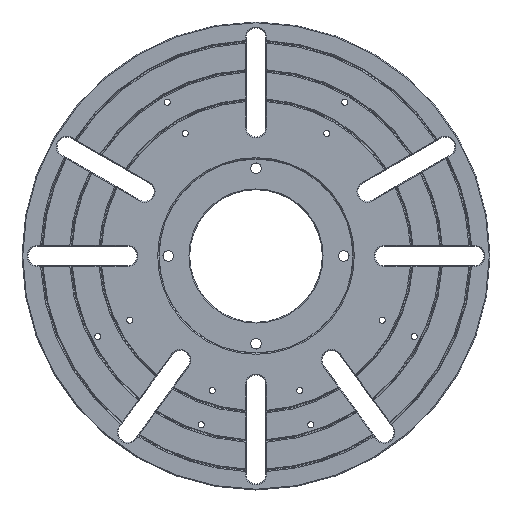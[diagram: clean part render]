
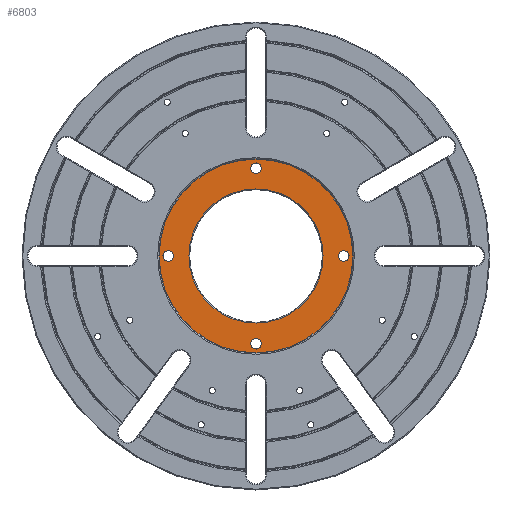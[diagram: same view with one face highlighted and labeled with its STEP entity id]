
A CAD part, top view. The second image highlights one B-rep face of the part: STEP entity #6803.
In plain terms, the highlighted planar face has unit normal (0, 0, 1).
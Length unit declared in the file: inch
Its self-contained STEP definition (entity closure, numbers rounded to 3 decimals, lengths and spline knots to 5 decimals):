
#166 = ORIENTED_EDGE ( 'NONE', *, *, #3655, .F. ) ;
#191 = DIRECTION ( 'NONE',  ( 1., 0., 0. ) ) ;
#238 = CARTESIAN_POINT ( 'NONE',  ( -1.125, 0., 0.166 ) ) ;
#364 = EDGE_LOOP ( 'NONE', ( #5089, #9689 ) ) ;
#472 = FACE_BOUND ( 'NONE', #4853, .T. ) ;
#500 = EDGE_CURVE ( 'NONE', #841, #7601, #9303, .T. ) ;
#506 = DIRECTION ( 'NONE',  ( 0., 0., -1. ) ) ;
#587 = CIRCLE ( 'NONE', #9646, 0.068 ) ;
#594 = CIRCLE ( 'NONE', #7504, 0.068 ) ;
#611 = EDGE_CURVE ( 'NONE', #4189, #6897, #5154, .T. ) ;
#620 = FACE_OUTER_BOUND ( 'NONE', #5251, .T. ) ;
#659 = VERTEX_POINT ( 'NONE', #5315 ) ;
#787 = EDGE_CURVE ( 'NONE', #1692, #5205, #9140, .T. ) ;
#841 = VERTEX_POINT ( 'NONE', #3160 ) ;
#922 = VERTEX_POINT ( 'NONE', #9824 ) ;
#950 = EDGE_CURVE ( 'NONE', #659, #922, #594, .T. ) ;
#971 = VERTEX_POINT ( 'NONE', #8162 ) ;
#1030 = AXIS2_PLACEMENT_3D ( 'NONE', #1642, #6310, #4864 ) ;
#1118 = ORIENTED_EDGE ( 'NONE', *, *, #4534, .T. ) ;
#1354 = CIRCLE ( 'NONE', #10072, 0.068 ) ;
#1532 = EDGE_CURVE ( 'NONE', #7620, #2320, #1700, .T. ) ;
#1642 = CARTESIAN_POINT ( 'NONE',  ( 0., 1.125, 0.166 ) ) ;
#1692 = VERTEX_POINT ( 'NONE', #5792 ) ;
#1700 = CIRCLE ( 'NONE', #1030, 0.068 ) ;
#1735 = AXIS2_PLACEMENT_3D ( 'NONE', #3612, #3759, #8445 ) ;
#1798 = CARTESIAN_POINT ( 'NONE',  ( -0.86, 0., 0.166 ) ) ;
#1917 = ORIENTED_EDGE ( 'NONE', *, *, #950, .F. ) ;
#1994 = DIRECTION ( 'NONE',  ( 0., 0., 1. ) ) ;
#2132 = DIRECTION ( 'NONE',  ( 1., 0., 0. ) ) ;
#2147 = DIRECTION ( 'NONE',  ( 1., 0., 0. ) ) ;
#2222 = CIRCLE ( 'NONE', #6971, 0.068 ) ;
#2239 = DIRECTION ( 'NONE',  ( 0., 0., 1. ) ) ;
#2247 = AXIS2_PLACEMENT_3D ( 'NONE', #2767, #506, #9211 ) ;
#2320 = VERTEX_POINT ( 'NONE', #9808 ) ;
#2329 = CARTESIAN_POINT ( 'NONE',  ( 1.193, 0., 0.166 ) ) ;
#2492 = DIRECTION ( 'NONE',  ( 0., 0., 1. ) ) ;
#2499 = AXIS2_PLACEMENT_3D ( 'NONE', #7268, #7122, #191 ) ;
#2601 = DIRECTION ( 'NONE',  ( 0., 0., 1. ) ) ;
#2749 = CARTESIAN_POINT ( 'NONE',  ( 0.068, -1.125, 0.166 ) ) ;
#2767 = CARTESIAN_POINT ( 'NONE',  ( 0., 0., 0.166 ) ) ;
#2820 = CARTESIAN_POINT ( 'NONE',  ( -1.125, 0., 0.166 ) ) ;
#2972 = VERTEX_POINT ( 'NONE', #3240 ) ;
#3160 = CARTESIAN_POINT ( 'NONE',  ( -0.068, -1.125, 0.166 ) ) ;
#3240 = CARTESIAN_POINT ( 'NONE',  ( 1.2425, 0., 0.166 ) ) ;
#3269 = CARTESIAN_POINT ( 'NONE',  ( 1.125, 0., 0.166 ) ) ;
#3376 = ORIENTED_EDGE ( 'NONE', *, *, #9448, .F. ) ;
#3386 = CARTESIAN_POINT ( 'NONE',  ( 0., -1.125, 0.166 ) ) ;
#3612 = CARTESIAN_POINT ( 'NONE',  ( 0., 1.2505, 0.166 ) ) ;
#3655 = EDGE_CURVE ( 'NONE', #2320, #7620, #8332, .T. ) ;
#3759 = DIRECTION ( 'NONE',  ( 0., 0., 1. ) ) ;
#3982 = DIRECTION ( 'NONE',  ( 0., 0., 1. ) ) ;
#4189 = VERTEX_POINT ( 'NONE', #1798 ) ;
#4272 = EDGE_CURVE ( 'NONE', #6897, #4189, #9992, .T. ) ;
#4459 = CARTESIAN_POINT ( 'NONE',  ( 0.86, 0., 0.166 ) ) ;
#4506 = EDGE_CURVE ( 'NONE', #7601, #841, #1354, .T. ) ;
#4510 = FACE_BOUND ( 'NONE', #7516, .T. ) ;
#4534 = EDGE_CURVE ( 'NONE', #971, #2972, #7102, .T. ) ;
#4683 = AXIS2_PLACEMENT_3D ( 'NONE', #6036, #2239, #2132 ) ;
#4729 = ORIENTED_EDGE ( 'NONE', *, *, #7554, .F. ) ;
#4827 = AXIS2_PLACEMENT_3D ( 'NONE', #3386, #5695, #6677 ) ;
#4853 = EDGE_LOOP ( 'NONE', ( #1917, #3376 ) ) ;
#4864 = DIRECTION ( 'NONE',  ( 1., 0., 0. ) ) ;
#4934 = DIRECTION ( 'NONE',  ( 0., 0., 1. ) ) ;
#5089 = ORIENTED_EDGE ( 'NONE', *, *, #4506, .F. ) ;
#5154 = CIRCLE ( 'NONE', #7645, 0.86 ) ;
#5205 = VERTEX_POINT ( 'NONE', #2329 ) ;
#5251 = EDGE_LOOP ( 'NONE', ( #7074, #1118 ) ) ;
#5315 = CARTESIAN_POINT ( 'NONE',  ( -1.057, 0., 0.166 ) ) ;
#5598 = CIRCLE ( 'NONE', #5812, 1.2425 ) ;
#5695 = DIRECTION ( 'NONE',  ( 0., 0., 1. ) ) ;
#5723 = CARTESIAN_POINT ( 'NONE',  ( 1.125, 0., 0.166 ) ) ;
#5725 = DIRECTION ( 'NONE',  ( 1., 0., 0. ) ) ;
#5792 = CARTESIAN_POINT ( 'NONE',  ( 1.057, 0., 0.166 ) ) ;
#5812 = AXIS2_PLACEMENT_3D ( 'NONE', #9057, #1994, #2147 ) ;
#5953 = DIRECTION ( 'NONE',  ( 1., 0., 0. ) ) ;
#6036 = CARTESIAN_POINT ( 'NONE',  ( 0., 1.125, 0.166 ) ) ;
#6094 = ORIENTED_EDGE ( 'NONE', *, *, #4272, .T. ) ;
#6259 = EDGE_LOOP ( 'NONE', ( #6094, #8079 ) ) ;
#6310 = DIRECTION ( 'NONE',  ( 0., 0., 1. ) ) ;
#6395 = DIRECTION ( 'NONE',  ( 1., 0., 0. ) ) ;
#6677 = DIRECTION ( 'NONE',  ( 1., 0., 0. ) ) ;
#6803 = ADVANCED_FACE ( 'NONE', ( #620, #9851, #7520, #4510, #7561, #472 ), #8292, .T. ) ;
#6897 = VERTEX_POINT ( 'NONE', #4459 ) ;
#6971 = AXIS2_PLACEMENT_3D ( 'NONE', #5723, #2492, #7951 ) ;
#7074 = ORIENTED_EDGE ( 'NONE', *, *, #8524, .T. ) ;
#7102 = CIRCLE ( 'NONE', #2499, 1.2425 ) ;
#7122 = DIRECTION ( 'NONE',  ( 0., 0., 1. ) ) ;
#7268 = CARTESIAN_POINT ( 'NONE',  ( 0., 0., 0.166 ) ) ;
#7504 = AXIS2_PLACEMENT_3D ( 'NONE', #238, #2601, #5725 ) ;
#7516 = EDGE_LOOP ( 'NONE', ( #4729, #9322 ) ) ;
#7520 = FACE_BOUND ( 'NONE', #7577, .T. ) ;
#7554 = EDGE_CURVE ( 'NONE', #5205, #1692, #2222, .T. ) ;
#7561 = FACE_BOUND ( 'NONE', #364, .T. ) ;
#7577 = EDGE_LOOP ( 'NONE', ( #166, #8172 ) ) ;
#7601 = VERTEX_POINT ( 'NONE', #2749 ) ;
#7620 = VERTEX_POINT ( 'NONE', #9086 ) ;
#7645 = AXIS2_PLACEMENT_3D ( 'NONE', #9209, #10076, #9253 ) ;
#7951 = DIRECTION ( 'NONE',  ( 1., 0., 0. ) ) ;
#8079 = ORIENTED_EDGE ( 'NONE', *, *, #611, .T. ) ;
#8162 = CARTESIAN_POINT ( 'NONE',  ( -1.2425, 0., 0.166 ) ) ;
#8172 = ORIENTED_EDGE ( 'NONE', *, *, #1532, .F. ) ;
#8292 = PLANE ( 'NONE',  #1735 ) ;
#8332 = CIRCLE ( 'NONE', #4683, 0.068 ) ;
#8397 = DIRECTION ( 'NONE',  ( 0., 0., 1. ) ) ;
#8445 = DIRECTION ( 'NONE',  ( 1., 0., 0. ) ) ;
#8524 = EDGE_CURVE ( 'NONE', #2972, #971, #5598, .T. ) ;
#8696 = CARTESIAN_POINT ( 'NONE',  ( 0., -1.125, 0.166 ) ) ;
#9057 = CARTESIAN_POINT ( 'NONE',  ( 0., 0., 0.166 ) ) ;
#9086 = CARTESIAN_POINT ( 'NONE',  ( -0.068, 1.125, 0.166 ) ) ;
#9140 = CIRCLE ( 'NONE', #9476, 0.068 ) ;
#9209 = CARTESIAN_POINT ( 'NONE',  ( 0., 0., 0.166 ) ) ;
#9211 = DIRECTION ( 'NONE',  ( 1., 0., 0. ) ) ;
#9253 = DIRECTION ( 'NONE',  ( 1., 0., 0. ) ) ;
#9303 = CIRCLE ( 'NONE', #4827, 0.068 ) ;
#9322 = ORIENTED_EDGE ( 'NONE', *, *, #787, .F. ) ;
#9448 = EDGE_CURVE ( 'NONE', #922, #659, #587, .T. ) ;
#9464 = DIRECTION ( 'NONE',  ( 1., 0., 0. ) ) ;
#9476 = AXIS2_PLACEMENT_3D ( 'NONE', #3269, #3982, #9464 ) ;
#9646 = AXIS2_PLACEMENT_3D ( 'NONE', #2820, #8397, #5953 ) ;
#9689 = ORIENTED_EDGE ( 'NONE', *, *, #500, .F. ) ;
#9808 = CARTESIAN_POINT ( 'NONE',  ( 0.068, 1.125, 0.166 ) ) ;
#9824 = CARTESIAN_POINT ( 'NONE',  ( -1.193, 0., 0.166 ) ) ;
#9851 = FACE_BOUND ( 'NONE', #6259, .T. ) ;
#9992 = CIRCLE ( 'NONE', #2247, 0.86 ) ;
#10072 = AXIS2_PLACEMENT_3D ( 'NONE', #8696, #4934, #6395 ) ;
#10076 = DIRECTION ( 'NONE',  ( 0., 0., -1. ) ) ;
